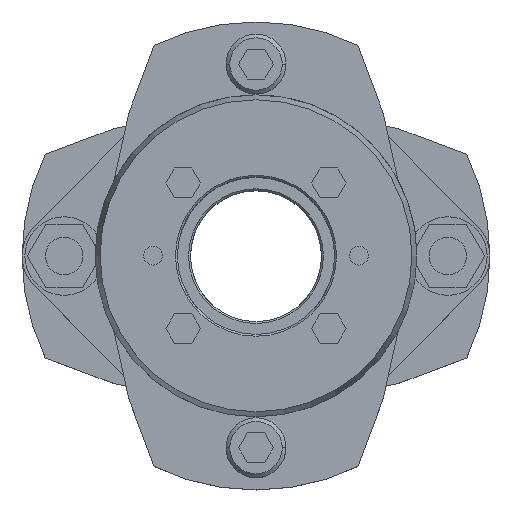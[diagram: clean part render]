
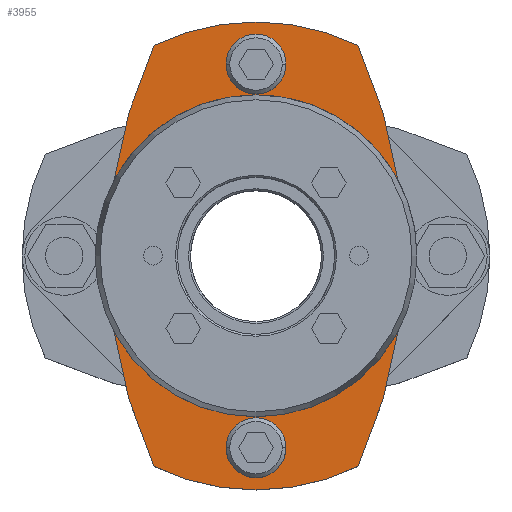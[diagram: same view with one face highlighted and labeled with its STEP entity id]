
A CAD part, top view. The second image highlights one B-rep face of the part: STEP entity #3955.
In plain terms, the highlighted planar face has unit normal (0, 0, 1).
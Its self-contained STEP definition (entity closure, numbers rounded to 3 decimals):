
#1387=CARTESIAN_POINT('',(-39.5,0.,19.0));
#1388=VERTEX_POINT('',#1387);
#1404=CARTESIAN_POINT('',(-27.217,-56.263,19.0));
#1405=VERTEX_POINT('',#1404);
#1412=CARTESIAN_POINT('',(95.5,0.,19.0));
#1413=DIRECTION('',(0.0,0.0,-1.0));
#1414=DIRECTION('',(-1.0,0.0,0.0));
#1415=AXIS2_PLACEMENT_3D('',#1412,#1413,#1414);
#1416=CIRCLE('',#1415,135.);
#1417=EDGE_CURVE('',#1405,#1388,#1416,.T.);
#1427=CARTESIAN_POINT('',(39.5,0.,19.0));
#1428=VERTEX_POINT('',#1427);
#1437=CARTESIAN_POINT('',(27.217,-56.263,19.0));
#1438=VERTEX_POINT('',#1437);
#1439=CARTESIAN_POINT('',(-95.5,0.,19.0));
#1440=DIRECTION('',(0.0,0.0,-1.0));
#1441=DIRECTION('',(-1.0,0.0,0.0));
#1442=AXIS2_PLACEMENT_3D('',#1439,#1440,#1441);
#1443=CIRCLE('',#1442,135.);
#1444=EDGE_CURVE('',#1428,#1438,#1443,.T.);
#1693=CARTESIAN_POINT('',(-32.5,0.,19.0));
#1694=VERTEX_POINT('',#1693);
#1744=CARTESIAN_POINT('',(32.5,0.,19.0));
#1745=VERTEX_POINT('',#1744);
#1752=CARTESIAN_POINT('',(0.,0.,19.0));
#1753=DIRECTION('',(0.0,0.0,-1.0));
#1754=DIRECTION('',(-1.0,0.0,0.0));
#1755=AXIS2_PLACEMENT_3D('',#1752,#1753,#1754);
#1756=CIRCLE('',#1755,32.5);
#1757=EDGE_CURVE('',#1694,#1745,#1756,.T.);
#1853=CARTESIAN_POINT('',(-8.,-51.25,19.0));
#1854=VERTEX_POINT('',#1853);
#1870=CARTESIAN_POINT('',(8.,-51.25,19.0));
#1871=VERTEX_POINT('',#1870);
#1878=CARTESIAN_POINT('',(0.,-51.25,19.0));
#1879=DIRECTION('',(0.0,0.0,-1.0));
#1880=DIRECTION('',(-1.0,0.0,0.0));
#1881=AXIS2_PLACEMENT_3D('',#1878,#1879,#1880);
#1882=CIRCLE('',#1881,8.0);
#1883=EDGE_CURVE('',#1854,#1871,#1882,.T.);
#1927=CARTESIAN_POINT('',(-8.,51.25,19.0));
#1928=VERTEX_POINT('',#1927);
#1944=CARTESIAN_POINT('',(8.,51.25,19.0));
#1945=VERTEX_POINT('',#1944);
#1952=CARTESIAN_POINT('',(0.,51.25,19.0));
#1953=DIRECTION('',(0.0,0.0,-1.0));
#1954=DIRECTION('',(-1.0,0.0,0.0));
#1955=AXIS2_PLACEMENT_3D('',#1952,#1953,#1954);
#1956=CIRCLE('',#1955,8.0);
#1957=EDGE_CURVE('',#1928,#1945,#1956,.T.);
#2496=CARTESIAN_POINT('',(0.,51.25,19.0));
#2497=DIRECTION('',(0.0,0.0,-1.0));
#2498=DIRECTION('',(-1.0,0.0,0.0));
#2499=AXIS2_PLACEMENT_3D('',#2496,#2497,#2498);
#2500=CIRCLE('',#2499,8.0);
#2501=EDGE_CURVE('',#1945,#1928,#2500,.T.);
#2556=CARTESIAN_POINT('',(0.,-51.25,19.0));
#2557=DIRECTION('',(0.0,0.0,-1.0));
#2558=DIRECTION('',(-1.0,0.0,0.0));
#2559=AXIS2_PLACEMENT_3D('',#2556,#2557,#2558);
#2560=CIRCLE('',#2559,8.0);
#2561=EDGE_CURVE('',#1871,#1854,#2560,.T.);
#3628=CARTESIAN_POINT('',(0.,0.,19.0));
#3629=DIRECTION('',(0.0,0.0,-1.0));
#3630=DIRECTION('',(-1.0,0.0,0.0));
#3631=AXIS2_PLACEMENT_3D('',#3628,#3629,#3630);
#3632=CIRCLE('',#3631,32.5);
#3633=EDGE_CURVE('',#1745,#1694,#3632,.T.);
#3849=CARTESIAN_POINT('',(-27.217,56.263,19.0));
#3850=VERTEX_POINT('',#3849);
#3851=CARTESIAN_POINT('',(27.217,56.263,19.0));
#3852=VERTEX_POINT('',#3851);
#3853=CARTESIAN_POINT('',(0.,0.,19.0));
#3854=DIRECTION('',(0.0,0.0,-1.0));
#3855=DIRECTION('',(-1.0,0.0,0.0));
#3856=AXIS2_PLACEMENT_3D('',#3853,#3854,#3855);
#3857=CIRCLE('',#3856,62.5);
#3858=EDGE_CURVE('',#3850,#3852,#3857,.T.);
#3884=CARTESIAN_POINT('',(-95.5,0.,19.0));
#3885=DIRECTION('',(0.0,0.0,-1.0));
#3886=DIRECTION('',(-1.0,0.0,0.0));
#3887=AXIS2_PLACEMENT_3D('',#3884,#3885,#3886);
#3888=CIRCLE('',#3887,135.);
#3889=EDGE_CURVE('',#3852,#1428,#3888,.T.);
#3899=CARTESIAN_POINT('',(0.,0.0,19.0));
#3900=DIRECTION('',(0.0,0.0,-1.0));
#3901=DIRECTION('',(-1.0,0.0,0.0));
#3902=AXIS2_PLACEMENT_3D('',#3899,#3900,#3901);
#3903=CIRCLE('',#3902,62.5);
#3904=EDGE_CURVE('',#1438,#1405,#3903,.T.);
#3918=CARTESIAN_POINT('',(95.5,0.,19.0));
#3919=DIRECTION('',(0.0,0.0,-1.0));
#3920=DIRECTION('',(-1.0,0.0,0.0));
#3921=AXIS2_PLACEMENT_3D('',#3918,#3919,#3920);
#3922=CIRCLE('',#3921,135.);
#3923=EDGE_CURVE('',#1388,#3850,#3922,.T.);
#3930=CARTESIAN_POINT('',(0.,0.,19.0));
#3931=DIRECTION('',(0.0,0.0,1.0));
#3932=DIRECTION('',(-1.0,0.0,0.0));
#3933=AXIS2_PLACEMENT_3D('',#3930,#3931,#3932);
#3934=PLANE('',#3933);
#3935=ORIENTED_EDGE('',*,*,#3858,.F.);
#3936=ORIENTED_EDGE('',*,*,#3923,.F.);
#3937=ORIENTED_EDGE('',*,*,#1417,.F.);
#3938=ORIENTED_EDGE('',*,*,#3904,.F.);
#3939=ORIENTED_EDGE('',*,*,#1444,.F.);
#3940=ORIENTED_EDGE('',*,*,#3889,.F.);
#3941=EDGE_LOOP('',(#3935,#3936,#3937,#3938,#3939,#3940));
#3942=FACE_OUTER_BOUND('',#3941,.T.);
#3943=ORIENTED_EDGE('',*,*,#1957,.T.);
#3944=ORIENTED_EDGE('',*,*,#2501,.T.);
#3945=EDGE_LOOP('',(#3943,#3944));
#3946=FACE_BOUND('',#3945,.T.);
#3947=ORIENTED_EDGE('',*,*,#1883,.T.);
#3948=ORIENTED_EDGE('',*,*,#2561,.T.);
#3949=EDGE_LOOP('',(#3947,#3948));
#3950=FACE_BOUND('',#3949,.T.);
#3951=ORIENTED_EDGE('',*,*,#1757,.T.);
#3952=ORIENTED_EDGE('',*,*,#3633,.T.);
#3953=EDGE_LOOP('',(#3951,#3952));
#3954=FACE_BOUND('',#3953,.T.);
#3955=ADVANCED_FACE('',(#3942,#3946,#3950,#3954),#3934,.T.);
